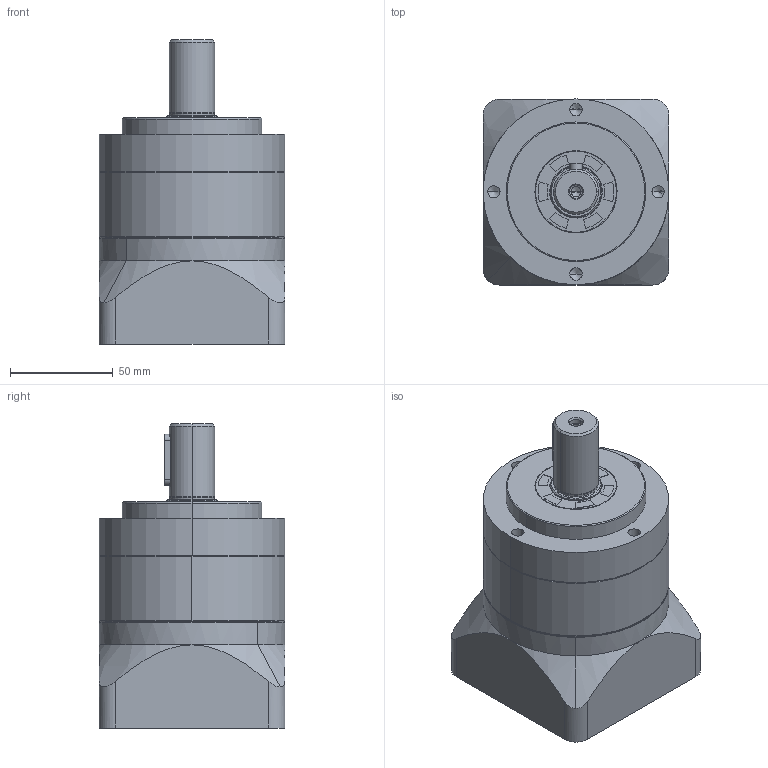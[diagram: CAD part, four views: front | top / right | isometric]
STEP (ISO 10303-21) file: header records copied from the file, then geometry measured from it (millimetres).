
FILE_DESCRIPTION (( 'STEP AP203' ), '1' );
FILE_NAME ('NA90-L1(19-70-90-M6).STEP', '2022-03-11T18:49:48', ( '' ), ( '' ), 'SwSTEP 2.0', 'SolidWorks 2016', '' );
FILE_SCHEMA (( 'CONFIG_CONTROL_DESIGN' ));
Length unit declared in the file: millimetre
Products named in the file (9): SN90-48x27x15-M6; NA90-(68x8-80-M6); SN90-25x40x5; SN90-(22x37-6x25); SN90-(70-90-M6); NA90-L1(19-70-90-M6); SN90; DP90; SN90-(19)
Assembly tree (8 placements, depth 2):
  NA90-L1(19-70-90-M6)
    NA90-(68x8-80-M6)
    SN90-25x40x5
    SN90-(22x37-6x25)
    SN90
    DP90
    SN90-(70-90-M6)
    SN90-(19)
    SN90-48x27x15-M6
Bounding box: 90.5 x 90.5 x 148.1 mm (x, y, z)
Volume: 668254.7 mm3; surface area: 130829.3 mm2
Topology: 10 solids, 10 shells, 465 faces, 1180 edges, 742 vertices
Faces by surface type: cylinder 254, plane 101, cone 69, bspline 35, torus 6
Entity records: 32291 total; most frequent: CARTESIAN_POINT 20771, ORIENTED_EDGE 2300, DIRECTION 2134, EDGE_CURVE 1150, AXIS2_PLACEMENT_3D 840, VERTEX_POINT 742, EDGE_LOOP 550, FACE_OUTER_BOUND 465
